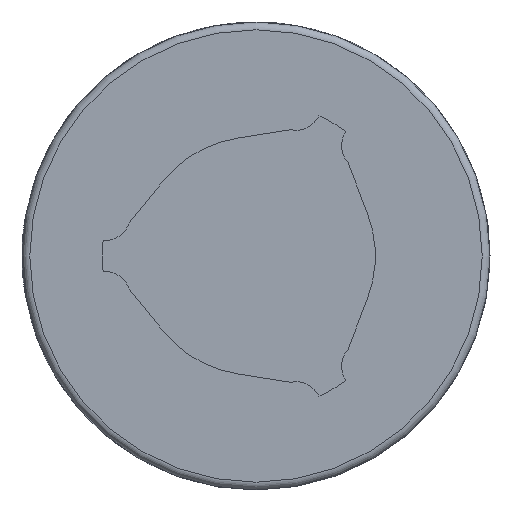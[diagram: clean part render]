
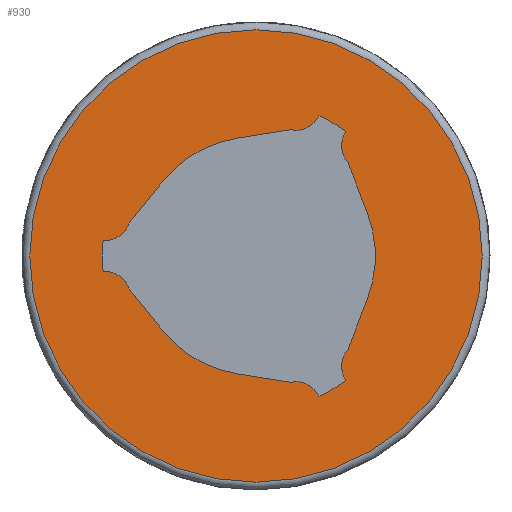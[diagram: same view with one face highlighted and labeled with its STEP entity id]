
A CAD part, left-side view. The second image highlights one B-rep face of the part: STEP entity #930.
In plain terms, the highlighted planar face has unit normal (-1, 0, 0).
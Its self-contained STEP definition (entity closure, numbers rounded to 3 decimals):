
#71=LINE('',#1439,#141);
#72=LINE('',#1448,#142);
#73=LINE('',#1452,#143);
#74=LINE('',#1460,#144);
#75=LINE('',#1464,#145);
#76=LINE('',#1472,#146);
#141=VECTOR('',#1135,1000.);
#142=VECTOR('',#1142,1000.);
#143=VECTOR('',#1145,1000.);
#144=VECTOR('',#1152,1000.);
#145=VECTOR('',#1155,1000.);
#146=VECTOR('',#1162,1000.);
#211=ORIENTED_EDGE('',*,*,#483,.F.);
#212=ORIENTED_EDGE('',*,*,#484,.T.);
#213=ORIENTED_EDGE('',*,*,#485,.F.);
#214=ORIENTED_EDGE('',*,*,#486,.T.);
#215=ORIENTED_EDGE('',*,*,#487,.F.);
#216=ORIENTED_EDGE('',*,*,#488,.T.);
#217=ORIENTED_EDGE('',*,*,#489,.T.);
#218=ORIENTED_EDGE('',*,*,#490,.T.);
#219=ORIENTED_EDGE('',*,*,#491,.F.);
#220=ORIENTED_EDGE('',*,*,#492,.T.);
#221=ORIENTED_EDGE('',*,*,#493,.F.);
#222=ORIENTED_EDGE('',*,*,#494,.T.);
#223=ORIENTED_EDGE('',*,*,#495,.T.);
#224=ORIENTED_EDGE('',*,*,#496,.T.);
#225=ORIENTED_EDGE('',*,*,#497,.F.);
#226=ORIENTED_EDGE('',*,*,#498,.T.);
#227=ORIENTED_EDGE('',*,*,#499,.F.);
#228=ORIENTED_EDGE('',*,*,#500,.T.);
#229=ORIENTED_EDGE('',*,*,#501,.T.);
#483=EDGE_CURVE('',#619,#619,#713,.T.);
#484=EDGE_CURVE('',#620,#621,#71,.T.);
#485=EDGE_CURVE('',#622,#621,#714,.T.);
#486=EDGE_CURVE('',#622,#623,#715,.T.);
#487=EDGE_CURVE('',#624,#623,#716,.T.);
#488=EDGE_CURVE('',#624,#625,#72,.T.);
#489=EDGE_CURVE('',#625,#626,#717,.T.);
#490=EDGE_CURVE('',#626,#627,#73,.T.);
#491=EDGE_CURVE('',#628,#627,#718,.T.);
#492=EDGE_CURVE('',#628,#629,#719,.T.);
#493=EDGE_CURVE('',#630,#629,#720,.T.);
#494=EDGE_CURVE('',#630,#631,#74,.T.);
#495=EDGE_CURVE('',#631,#632,#721,.T.);
#496=EDGE_CURVE('',#632,#633,#75,.T.);
#497=EDGE_CURVE('',#634,#633,#722,.T.);
#498=EDGE_CURVE('',#634,#635,#723,.T.);
#499=EDGE_CURVE('',#636,#635,#724,.T.);
#500=EDGE_CURVE('',#636,#637,#76,.T.);
#501=EDGE_CURVE('',#637,#620,#725,.T.);
#619=VERTEX_POINT('',#1438);
#620=VERTEX_POINT('',#1440);
#621=VERTEX_POINT('',#1441);
#622=VERTEX_POINT('',#1443);
#623=VERTEX_POINT('',#1445);
#624=VERTEX_POINT('',#1447);
#625=VERTEX_POINT('',#1449);
#626=VERTEX_POINT('',#1451);
#627=VERTEX_POINT('',#1453);
#628=VERTEX_POINT('',#1455);
#629=VERTEX_POINT('',#1457);
#630=VERTEX_POINT('',#1459);
#631=VERTEX_POINT('',#1461);
#632=VERTEX_POINT('',#1463);
#633=VERTEX_POINT('',#1465);
#634=VERTEX_POINT('',#1467);
#635=VERTEX_POINT('',#1469);
#636=VERTEX_POINT('',#1471);
#637=VERTEX_POINT('',#1473);
#713=CIRCLE('',#1013,14.5);
#714=CIRCLE('',#1014,1.65);
#715=CIRCLE('',#1015,9.85);
#716=CIRCLE('',#1016,1.65);
#717=CIRCLE('',#1017,7.65);
#718=CIRCLE('',#1018,1.65);
#719=CIRCLE('',#1019,9.85);
#720=CIRCLE('',#1020,1.65);
#721=CIRCLE('',#1021,7.65);
#722=CIRCLE('',#1022,1.65);
#723=CIRCLE('',#1023,9.85);
#724=CIRCLE('',#1024,1.65);
#725=CIRCLE('',#1025,7.65);
#772=EDGE_LOOP('',(#211));
#773=EDGE_LOOP('',(#212,#213,#214,#215,#216,#217,#218,#219,#220,#221,#222,
#223,#224,#225,#226,#227,#228,#229));
#840=FACE_BOUND('',#772,.T.);
#841=FACE_BOUND('',#773,.T.);
#908=PLANE('',#1012);
#930=ADVANCED_FACE('',(#840,#841),#908,.F.);
#1012=AXIS2_PLACEMENT_3D('',#1436,#1131,#1132);
#1013=AXIS2_PLACEMENT_3D('',#1437,#1133,#1134);
#1014=AXIS2_PLACEMENT_3D('',#1442,#1136,#1137);
#1015=AXIS2_PLACEMENT_3D('',#1444,#1138,#1139);
#1016=AXIS2_PLACEMENT_3D('',#1446,#1140,#1141);
#1017=AXIS2_PLACEMENT_3D('',#1450,#1143,#1144);
#1018=AXIS2_PLACEMENT_3D('',#1454,#1146,#1147);
#1019=AXIS2_PLACEMENT_3D('',#1456,#1148,#1149);
#1020=AXIS2_PLACEMENT_3D('',#1458,#1150,#1151);
#1021=AXIS2_PLACEMENT_3D('',#1462,#1153,#1154);
#1022=AXIS2_PLACEMENT_3D('',#1466,#1156,#1157);
#1023=AXIS2_PLACEMENT_3D('',#1468,#1158,#1159);
#1024=AXIS2_PLACEMENT_3D('',#1470,#1160,#1161);
#1025=AXIS2_PLACEMENT_3D('',#1474,#1163,#1164);
#1131=DIRECTION('',(1.,0.,0.));
#1132=DIRECTION('',(0.,0.,-1.));
#1133=DIRECTION('',(1.,0.,0.));
#1134=DIRECTION('',(0.,0.,-1.));
#1135=DIRECTION('',(0.,-0.988,0.156));
#1136=DIRECTION('',(1.,0.,0.));
#1137=DIRECTION('',(0.,0.,-1.));
#1138=DIRECTION('',(1.,0.,0.));
#1139=DIRECTION('',(0.,0.,-1.));
#1140=DIRECTION('',(1.,0.,0.));
#1141=DIRECTION('',(0.,0.,-1.));
#1142=DIRECTION('',(0.,-0.358,-0.934));
#1143=DIRECTION('',(1.,0.,0.));
#1144=DIRECTION('',(0.,0.,-1.));
#1145=DIRECTION('',(0.,0.358,-0.934));
#1146=DIRECTION('',(1.,0.,0.));
#1147=DIRECTION('',(0.,0.,-1.));
#1148=DIRECTION('',(1.,0.,0.));
#1149=DIRECTION('',(0.,0.,-1.));
#1150=DIRECTION('',(1.,0.,0.));
#1151=DIRECTION('',(0.,0.,-1.));
#1152=DIRECTION('',(0.,0.988,0.156));
#1153=DIRECTION('',(1.,0.,0.));
#1154=DIRECTION('',(0.,0.,-1.));
#1155=DIRECTION('',(0.,0.629,0.777));
#1156=DIRECTION('',(1.,0.,0.));
#1157=DIRECTION('',(0.,0.,-1.));
#1158=DIRECTION('',(1.,0.,0.));
#1159=DIRECTION('',(0.,0.,-1.));
#1160=DIRECTION('',(1.,0.,0.));
#1161=DIRECTION('',(0.,0.,-1.));
#1162=DIRECTION('',(0.,-0.629,0.777));
#1163=DIRECTION('',(1.,0.,0.));
#1164=DIRECTION('',(0.,0.,-1.));
#1436=CARTESIAN_POINT('',(0.,0.,0.));
#1437=CARTESIAN_POINT('',(0.,0.,0.));
#1438=CARTESIAN_POINT('',(0.,0.,-14.5));
#1439=CARTESIAN_POINT('',(0.,1.197,7.556));
#1440=CARTESIAN_POINT('',(0.,1.197,7.556));
#1441=CARTESIAN_POINT('',(0.,-2.222,8.097));
#1442=CARTESIAN_POINT('',(0.,-2.557,9.713));
#1443=CARTESIAN_POINT('',(0.,-4.038,8.984));
#1444=CARTESIAN_POINT('',(0.,0.,0.));
#1445=CARTESIAN_POINT('',(0.,-5.762,7.989));
#1446=CARTESIAN_POINT('',(0.,-7.133,7.071));
#1447=CARTESIAN_POINT('',(0.,-5.901,5.973));
#1448=CARTESIAN_POINT('',(0.,-5.901,5.973));
#1449=CARTESIAN_POINT('',(0.,-7.142,2.742));
#1450=CARTESIAN_POINT('',(0.,0.,0.));
#1451=CARTESIAN_POINT('',(0.,-7.142,-2.742));
#1452=CARTESIAN_POINT('',(0.,-7.142,-2.742));
#1453=CARTESIAN_POINT('',(0.,-5.901,-5.973));
#1454=CARTESIAN_POINT('',(0.,-7.133,-7.071));
#1455=CARTESIAN_POINT('',(0.,-5.762,-7.989));
#1456=CARTESIAN_POINT('',(0.,0.,0.));
#1457=CARTESIAN_POINT('',(0.,-4.038,-8.984));
#1458=CARTESIAN_POINT('',(0.,-2.557,-9.713));
#1459=CARTESIAN_POINT('',(0.,-2.222,-8.097));
#1460=CARTESIAN_POINT('',(0.,-2.222,-8.097));
#1461=CARTESIAN_POINT('',(0.,1.197,-7.556));
#1462=CARTESIAN_POINT('',(0.,0.,0.));
#1463=CARTESIAN_POINT('',(0.,5.945,-4.814));
#1464=CARTESIAN_POINT('',(0.,5.945,-4.814));
#1465=CARTESIAN_POINT('',(0.,8.123,-2.124));
#1466=CARTESIAN_POINT('',(0.,9.69,-2.642));
#1467=CARTESIAN_POINT('',(0.,9.8,-0.995));
#1468=CARTESIAN_POINT('',(0.,0.,0.));
#1469=CARTESIAN_POINT('',(0.,9.8,0.995));
#1470=CARTESIAN_POINT('',(0.,9.69,2.642));
#1471=CARTESIAN_POINT('',(0.,8.123,2.124));
#1472=CARTESIAN_POINT('',(0.,8.123,2.124));
#1473=CARTESIAN_POINT('',(0.,5.945,4.814));
#1474=CARTESIAN_POINT('',(0.,0.,0.));
